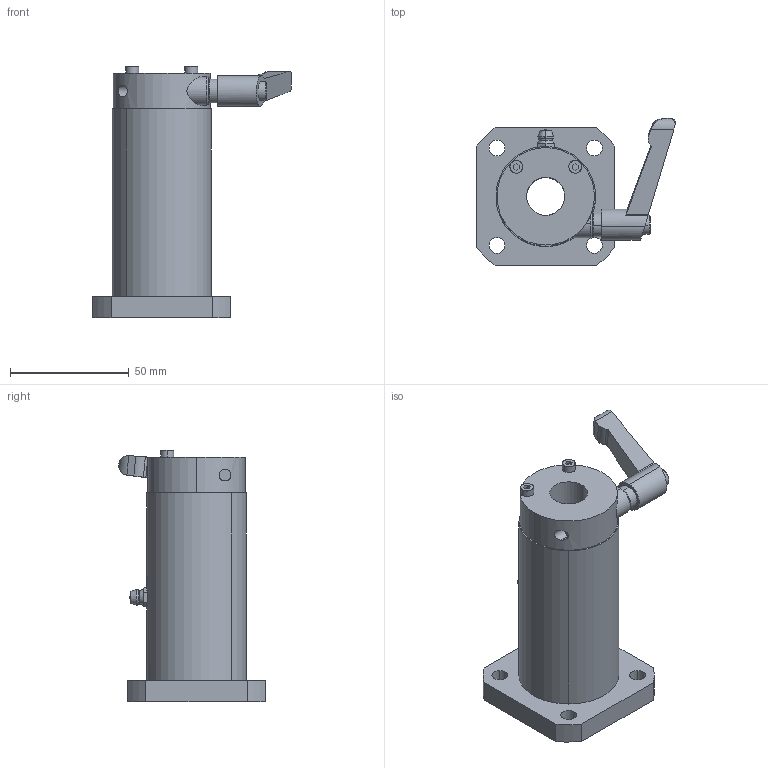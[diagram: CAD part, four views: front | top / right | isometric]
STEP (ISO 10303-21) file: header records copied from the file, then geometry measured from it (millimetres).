
FILE_DESCRIPTION (( 'STEP AP214' ), '1' );
FILE_NAME ('LFWK16-OH-C.STEP', '2023-06-27T02:09:36', ( '' ), ( '' ), 'SwSTEP 2.0', 'SolidWorks 2019', '' );
FILE_SCHEMA (( 'AUTOMOTIVE_DESIGN' ));
Length unit declared in the file: millimetre
Products named in the file (3): “ÁSCK1615CO-S3.4; LFWK16-OH; LFWK16-OH-C
Assembly tree (2 placements, depth 2):
  LFWK16-OH-C
    LFWK16-OH
    “ÁSCK1615CO-S3.4
Bounding box: 83.5 x 61.81 x 106 mm (x, y, z)
Volume: 139811.5 mm3; surface area: 36690.3 mm2
Topology: 3 solids, 9 shells, 231 faces, 562 edges, 357 vertices
Faces by surface type: cylinder 83, plane 69, bspline 47, cone 20, torus 8, sphere 4
Entity records: 10344 total; most frequent: CARTESIAN_POINT 2264, DIRECTION 1170, ORIENTED_EDGE 1120, EDGE_CURVE 560, AXIS2_PLACEMENT_3D 486, VERTEX_POINT 356, CIRCLE 297, EDGE_LOOP 280
